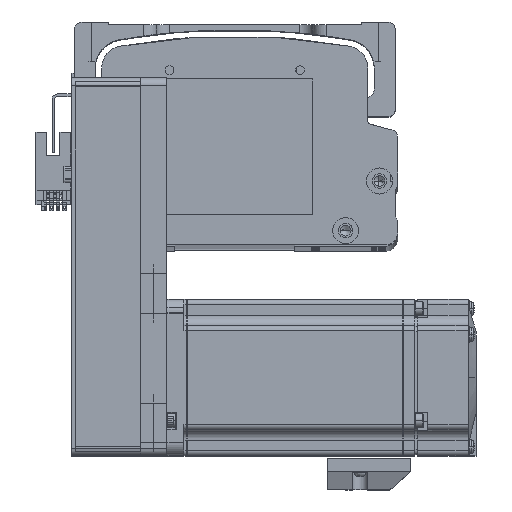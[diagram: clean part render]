
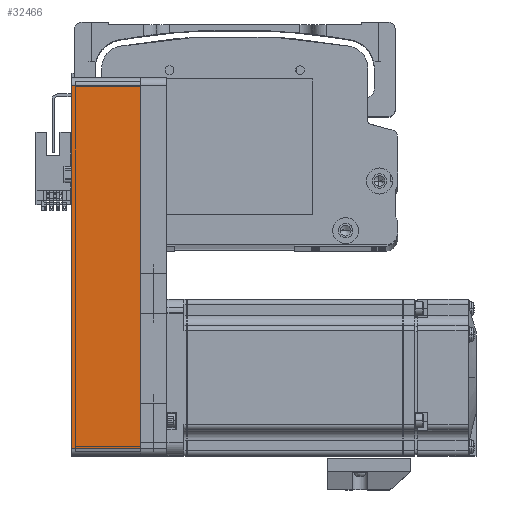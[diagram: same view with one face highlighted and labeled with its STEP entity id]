
A CAD part, top view. The second image highlights one B-rep face of the part: STEP entity #32466.
In plain terms, the highlighted planar face has unit normal (0, 0, 1) as drawn and (0, 1, 0) by its records, which use the part's own axes.
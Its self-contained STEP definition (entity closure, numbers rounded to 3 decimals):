
#3091 = VECTOR ( 'NONE', #52744, 1000. ) ;
#6711 = DIRECTION ( 'NONE',  ( 0., 0., -1. ) ) ;
#7903 = DIRECTION ( 'NONE',  ( 0., 0., 1. ) ) ;
#12543 = ORIENTED_EDGE ( 'NONE', *, *, #51844, .T. ) ;
#18634 = CARTESIAN_POINT ( 'NONE',  ( 72.5, 30., 26.5 ) ) ;
#20179 = ORIENTED_EDGE ( 'NONE', *, *, #54849, .T. ) ;
#22299 = LINE ( 'NONE', #72153, #33568 ) ;
#23804 = ORIENTED_EDGE ( 'NONE', *, *, #43293, .F. ) ;
#25231 = DIRECTION ( 'NONE',  ( 1., 0., 0. ) ) ;
#27050 = LINE ( 'NONE', #52599, #57845 ) ;
#27129 = CARTESIAN_POINT ( 'NONE',  ( -69.5, 30., 0. ) ) ;
#32041 = CARTESIAN_POINT ( 'NONE',  ( 72.5, 30., 26.5 ) ) ;
#32466 = ADVANCED_FACE ( 'NONE', ( #37725 ), #37872, .F. ) ;
#33568 = VECTOR ( 'NONE', #7903, 1000. ) ;
#36729 = ORIENTED_EDGE ( 'NONE', *, *, #50205, .T. ) ;
#37725 = FACE_OUTER_BOUND ( 'NONE', #62540, .T. ) ;
#37872 = PLANE ( 'NONE',  #45512 ) ;
#37975 = LINE ( 'NONE', #46167, #3091 ) ;
#38630 = DIRECTION ( 'NONE',  ( -1., 0., 0. ) ) ;
#41154 = VERTEX_POINT ( 'NONE', #76696 ) ;
#43293 = EDGE_CURVE ( 'NONE', #41154, #64464, #74358, .T. ) ;
#45512 = AXIS2_PLACEMENT_3D ( 'NONE', #18634, #64533, #25231 ) ;
#46167 = CARTESIAN_POINT ( 'NONE',  ( 72.5, 30., 0. ) ) ;
#50205 = EDGE_CURVE ( 'NONE', #41154, #62915, #27050, .T. ) ;
#51844 = EDGE_CURVE ( 'NONE', #77539, #64464, #22299, .T. ) ;
#52599 = CARTESIAN_POINT ( 'NONE',  ( 69.5, 30., 26.5 ) ) ;
#52744 = DIRECTION ( 'NONE',  ( -1., 0., 0. ) ) ;
#54834 = VECTOR ( 'NONE', #38630, 1000. ) ;
#54849 = EDGE_CURVE ( 'NONE', #62915, #77539, #37975, .T. ) ;
#57277 = CARTESIAN_POINT ( 'NONE',  ( 69.5, 30., 0. ) ) ;
#57845 = VECTOR ( 'NONE', #6711, 1000. ) ;
#62540 = EDGE_LOOP ( 'NONE', ( #20179, #12543, #23804, #36729 ) ) ;
#62915 = VERTEX_POINT ( 'NONE', #57277 ) ;
#64464 = VERTEX_POINT ( 'NONE', #84651 ) ;
#64533 = DIRECTION ( 'NONE',  ( 0., -1., 0. ) ) ;
#72153 = CARTESIAN_POINT ( 'NONE',  ( -69.5, 30., 26.5 ) ) ;
#74358 = LINE ( 'NONE', #32041, #54834 ) ;
#76696 = CARTESIAN_POINT ( 'NONE',  ( 69.5, 30., 26.5 ) ) ;
#77539 = VERTEX_POINT ( 'NONE', #27129 ) ;
#84651 = CARTESIAN_POINT ( 'NONE',  ( -69.5, 30., 26.5 ) ) ;
